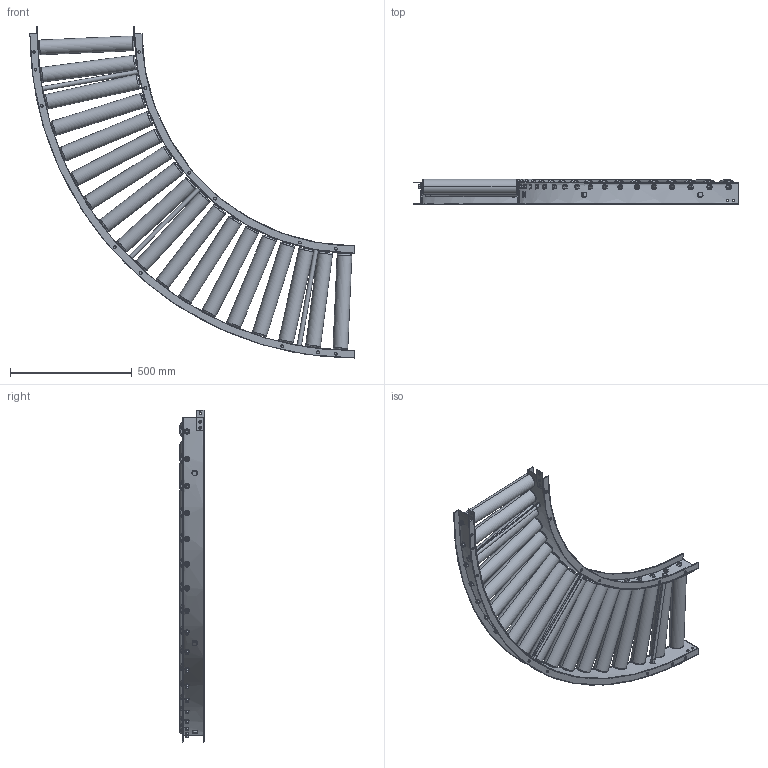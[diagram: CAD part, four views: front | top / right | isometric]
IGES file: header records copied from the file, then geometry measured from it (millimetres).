
Start section: SolidWorks IGES file using analytic representation for surfaces
Global section: file name: C:\Users\0656\Desktop\変換ツール\iges変換\S-6038N_C.igs; native system: SolidWorks 2023; preprocessor: SolidWorks 2023; author: 0656; date: 240302.141319; units: millimetre
Bounding box: 1330 x 101.75 x 1361.57 mm (x, y, z)
Surface area: 3618343.4 mm2 (no closed solid volume)
Topology: 0 solids, 0 shells, 922 faces, 18492 edges, 18492 vertices
Faces by surface type: bspline 480, revolution 442
